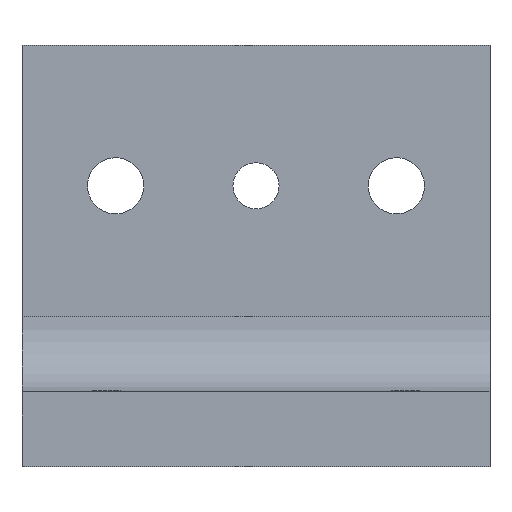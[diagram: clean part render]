
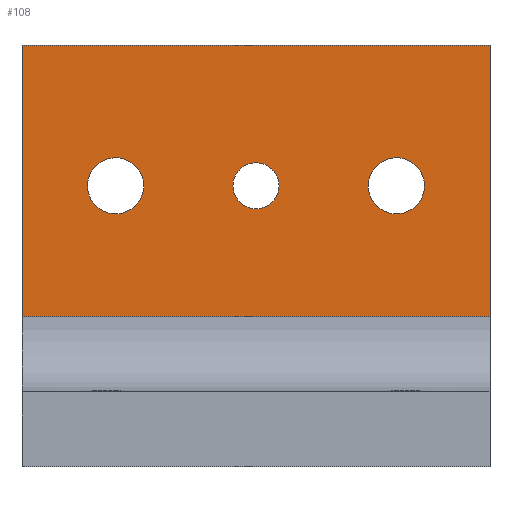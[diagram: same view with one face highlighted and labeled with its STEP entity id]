
A CAD part, front view. The second image highlights one B-rep face of the part: STEP entity #108.
In plain terms, the highlighted planar face has unit normal (0, -1, 0).
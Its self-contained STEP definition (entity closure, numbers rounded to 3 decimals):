
#108=ADVANCED_FACE('Pad.1',(#238,#239,#240,#241),#242,.F.);
#238=FACE_OUTER_BOUND('',#396,.T.);
#239=FACE_BOUND('',#397,.T.);
#240=FACE_BOUND('',#398,.T.);
#241=FACE_BOUND('',#399,.T.);
#242=PLANE('',#400);
#396=EDGE_LOOP('',(#652,#653,#654,#655));
#397=EDGE_LOOP('',(#656,#657,#658,#659));
#398=EDGE_LOOP('',(#660,#661,#662,#663));
#399=EDGE_LOOP('',(#664,#665,#666,#667));
#400=AXIS2_PLACEMENT_3D('',#668,#669,#670);
#652=ORIENTED_EDGE('',*,*,#1049,.F.);
#653=ORIENTED_EDGE('',*,*,#1050,.T.);
#654=ORIENTED_EDGE('',*,*,#1051,.T.);
#655=ORIENTED_EDGE('',*,*,#1052,.F.);
#656=ORIENTED_EDGE('',*,*,#1053,.T.);
#657=ORIENTED_EDGE('',*,*,#964,.T.);
#658=ORIENTED_EDGE('',*,*,#958,.T.);
#659=ORIENTED_EDGE('',*,*,#1054,.T.);
#660=ORIENTED_EDGE('',*,*,#1055,.T.);
#661=ORIENTED_EDGE('',*,*,#969,.T.);
#662=ORIENTED_EDGE('',*,*,#972,.T.);
#663=ORIENTED_EDGE('',*,*,#1056,.T.);
#664=ORIENTED_EDGE('',*,*,#1057,.T.);
#665=ORIENTED_EDGE('',*,*,#982,.T.);
#666=ORIENTED_EDGE('',*,*,#976,.T.);
#667=ORIENTED_EDGE('',*,*,#1058,.T.);
#668=CARTESIAN_POINT('',(0.0,-8.0,16.0));
#669=DIRECTION('',(0.0,1.0,0.0));
#670=DIRECTION('',(0.0,0.0,1.0));
#958=EDGE_CURVE('',#1150,#1147,#1151,.T.);
#964=EDGE_CURVE('',#1157,#1150,#1160,.T.);
#969=EDGE_CURVE('',#1163,#1167,#1169,.T.);
#972=EDGE_CURVE('',#1167,#1171,#1174,.T.);
#976=EDGE_CURVE('',#1180,#1177,#1181,.T.);
#982=EDGE_CURVE('',#1187,#1180,#1190,.T.);
#1049=EDGE_CURVE('',#1300,#1301,#1302,.T.);
#1050=EDGE_CURVE('',#1300,#1303,#1304,.F.);
#1051=EDGE_CURVE('',#1303,#1305,#1306,.T.);
#1052=EDGE_CURVE('',#1301,#1305,#1307,.F.);
#1053=EDGE_CURVE('',#1308,#1157,#1309,.T.);
#1054=EDGE_CURVE('',#1147,#1308,#1310,.T.);
#1055=EDGE_CURVE('',#1311,#1163,#1312,.T.);
#1056=EDGE_CURVE('',#1171,#1311,#1313,.T.);
#1057=EDGE_CURVE('',#1314,#1187,#1315,.T.);
#1058=EDGE_CURVE('',#1177,#1314,#1316,.T.);
#1147=VERTEX_POINT('',#1435);
#1150=VERTEX_POINT('',#1439);
#1151=CIRCLE('',#1440,3.0);
#1157=VERTEX_POINT('',#1447);
#1160=CIRCLE('',#1451,3.0);
#1163=VERTEX_POINT('',#1454);
#1167=VERTEX_POINT('',#1459);
#1169=CIRCLE('',#1462,3.0);
#1171=VERTEX_POINT('',#1464);
#1174=CIRCLE('',#1468,3.0);
#1177=VERTEX_POINT('',#1471);
#1180=VERTEX_POINT('',#1475);
#1181=CIRCLE('',#1476,2.459);
#1187=VERTEX_POINT('',#1483);
#1190=CIRCLE('',#1487,2.459);
#1300=VERTEX_POINT('',#1619);
#1301=VERTEX_POINT('',#1620);
#1302=LINE('',#1621,#1622);
#1303=VERTEX_POINT('',#1623);
#1304=LINE('',#1624,#1625);
#1305=VERTEX_POINT('',#1626);
#1306=LINE('',#1627,#1628);
#1307=LINE('',#1629,#1630);
#1308=VERTEX_POINT('',#1631);
#1309=CIRCLE('',#1632,3.0);
#1310=CIRCLE('',#1633,3.0);
#1311=VERTEX_POINT('',#1634);
#1312=CIRCLE('',#1635,3.0);
#1313=CIRCLE('',#1636,3.0);
#1314=VERTEX_POINT('',#1637);
#1315=CIRCLE('',#1638,2.459);
#1316=CIRCLE('',#1639,2.459);
#1435=CARTESIAN_POINT('',(-18.0,-8.0,30.0));
#1439=CARTESIAN_POINT('',(-17.633,-8.0,28.562));
#1440=AXIS2_PLACEMENT_3D('',#1820,#1821,#1822);
#1447=CARTESIAN_POINT('',(-12.0,-8.0,30.0));
#1451=AXIS2_PLACEMENT_3D('',#1831,#1832,#1833);
#1454=CARTESIAN_POINT('',(18.0,-8.0,30.0));
#1459=CARTESIAN_POINT('',(12.367,-8.0,28.562));
#1462=AXIS2_PLACEMENT_3D('',#1839,#1840,#1841);
#1464=CARTESIAN_POINT('',(12.0,-8.0,30.0));
#1468=AXIS2_PLACEMENT_3D('',#1843,#1844,#1845);
#1471=CARTESIAN_POINT('',(-2.459,-8.0,30.0));
#1475=CARTESIAN_POINT('',(-2.158,-8.0,28.821));
#1476=AXIS2_PLACEMENT_3D('',#1850,#1851,#1852);
#1483=CARTESIAN_POINT('',(2.459,-8.0,30.0));
#1487=AXIS2_PLACEMENT_3D('',#1861,#1862,#1863);
#1619=CARTESIAN_POINT('',(-25.0,-8.0,45.0));
#1620=CARTESIAN_POINT('',(25.0,-8.0,45.0));
#1621=CARTESIAN_POINT('',(0.0,-8.0,45.0));
#1622=VECTOR('',#1976,1.0);
#1623=CARTESIAN_POINT('',(-25.0,-8.0,16.0));
#1624=CARTESIAN_POINT('',(-25.0,-8.0,30.5));
#1625=VECTOR('',#1977,1.0);
#1626=CARTESIAN_POINT('',(25.0,-8.0,16.0));
#1627=CARTESIAN_POINT('',(0.0,-8.0,16.0));
#1628=VECTOR('',#1978,1.0);
#1629=CARTESIAN_POINT('',(25.0,-8.0,30.5));
#1630=VECTOR('',#1979,1.0);
#1631=CARTESIAN_POINT('',(-12.367,-8.0,31.438));
#1632=AXIS2_PLACEMENT_3D('',#1980,#1981,#1982);
#1633=AXIS2_PLACEMENT_3D('',#1983,#1984,#1985);
#1634=CARTESIAN_POINT('',(17.633,-8.0,31.438));
#1635=AXIS2_PLACEMENT_3D('',#1986,#1987,#1988);
#1636=AXIS2_PLACEMENT_3D('',#1989,#1990,#1991);
#1637=CARTESIAN_POINT('',(2.158,-8.0,31.179));
#1638=AXIS2_PLACEMENT_3D('',#1992,#1993,#1994);
#1639=AXIS2_PLACEMENT_3D('',#1995,#1996,#1997);
#1820=CARTESIAN_POINT('',(-15.0,-8.0,30.0));
#1821=DIRECTION('',(0.0,1.0,0.0));
#1822=DIRECTION('',(0.0,0.0,1.0));
#1831=CARTESIAN_POINT('',(-15.0,-8.0,30.0));
#1832=DIRECTION('',(0.0,1.0,0.0));
#1833=DIRECTION('',(0.0,0.0,1.0));
#1839=CARTESIAN_POINT('',(15.0,-8.0,30.0));
#1840=DIRECTION('',(0.0,1.0,0.0));
#1841=DIRECTION('',(0.0,0.0,1.0));
#1843=CARTESIAN_POINT('',(15.0,-8.0,30.0));
#1844=DIRECTION('',(0.0,1.0,0.0));
#1845=DIRECTION('',(0.0,0.0,1.0));
#1850=CARTESIAN_POINT('',(0.,-8.0,30.0));
#1851=DIRECTION('',(0.0,1.0,0.0));
#1852=DIRECTION('',(0.0,0.0,1.0));
#1861=CARTESIAN_POINT('',(0.,-8.0,30.0));
#1862=DIRECTION('',(0.0,1.0,0.0));
#1863=DIRECTION('',(0.0,0.0,1.0));
#1976=DIRECTION('',(1.0,0.0,0.0));
#1977=DIRECTION('',(0.0,0.0,1.0));
#1978=DIRECTION('',(1.0,0.0,0.0));
#1979=DIRECTION('',(0.0,0.0,1.0));
#1980=CARTESIAN_POINT('',(-15.0,-8.0,30.0));
#1981=DIRECTION('',(0.0,1.0,0.0));
#1982=DIRECTION('',(0.0,0.0,1.0));
#1983=CARTESIAN_POINT('',(-15.0,-8.0,30.0));
#1984=DIRECTION('',(0.0,1.0,0.0));
#1985=DIRECTION('',(0.0,0.0,1.0));
#1986=CARTESIAN_POINT('',(15.0,-8.0,30.0));
#1987=DIRECTION('',(0.0,1.0,0.0));
#1988=DIRECTION('',(0.0,0.0,1.0));
#1989=CARTESIAN_POINT('',(15.0,-8.0,30.0));
#1990=DIRECTION('',(0.0,1.0,0.0));
#1991=DIRECTION('',(0.0,0.0,1.0));
#1992=CARTESIAN_POINT('',(0.,-8.0,30.0));
#1993=DIRECTION('',(0.0,1.0,0.0));
#1994=DIRECTION('',(0.0,0.0,1.0));
#1995=CARTESIAN_POINT('',(0.,-8.0,30.0));
#1996=DIRECTION('',(0.0,1.0,0.0));
#1997=DIRECTION('',(0.0,0.0,1.0));
